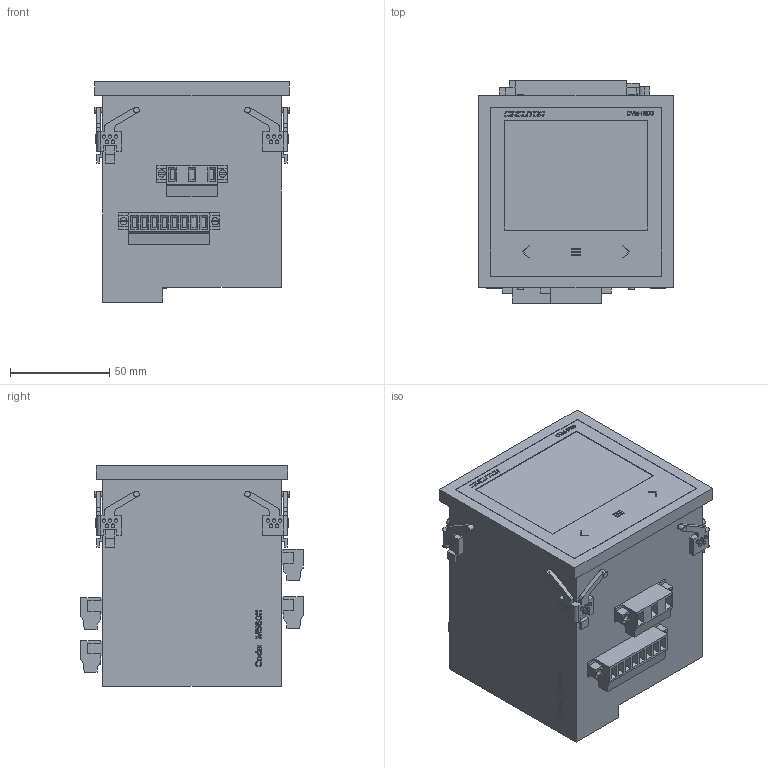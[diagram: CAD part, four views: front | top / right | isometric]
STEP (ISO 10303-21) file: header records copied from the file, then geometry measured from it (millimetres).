
FILE_DESCRIPTION((''),'2;1');
FILE_NAME('PRT0002','2017-09-08T',('bcollados'),(''),'CREO PARAMETRIC BY PTC INC, 2015290','CREO PARAMETRIC BY PTC INC, 2015290','');
FILE_SCHEMA(('AUTOMOTIVE_DESIGN { 1 0 10303 214 1 1 1 1 }'));
Length unit declared in the file: metre
Products named in the file (1): PRT0002
Bounding box: 98.4 x 112 x 111 mm (x, y, z)
Surface area: 76172.8 mm2 (no closed solid volume)
Topology: 0 solids, 73 shells, 911 faces, 4368 edges, 3663 vertices
Faces by surface type: plane 695, cylinder 200, bspline 16
Entity records: 52447 total; most frequent: CARTESIAN_POINT 9715, DIRECTION 6614, ORIENTED_EDGE 6414, EDGE_CURVE 4368, VECTOR 3760, LINE 3760, VERTEX_POINT 3663, COLOUR_RGB 1576
